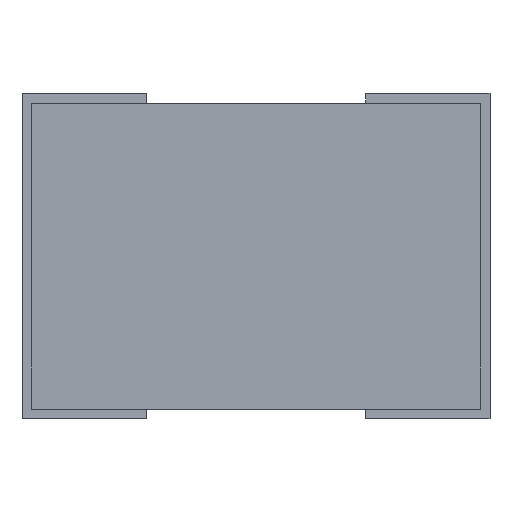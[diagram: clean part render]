
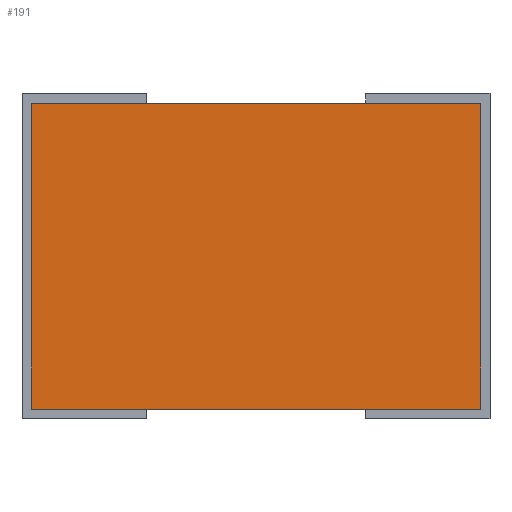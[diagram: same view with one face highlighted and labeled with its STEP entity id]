
A CAD part, front view. The second image highlights one B-rep face of the part: STEP entity #191.
In plain terms, the highlighted planar face has unit normal (0, -1, 0).
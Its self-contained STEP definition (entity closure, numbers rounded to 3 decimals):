
#191=ADVANCED_FACE('',(#197),#192,.T.);
#192=PLANE('',#193);
#193=AXIS2_PLACEMENT_3D('',#194,#195,#196);
#194=CARTESIAN_POINT('',(-0.597,-1.003,0.025));
#195=DIRECTION('',(0.0,-1.0,0.0));
#196=DIRECTION('',(0.,0.,1.));
#197=FACE_OUTER_BOUND('',#198,.T.);
#198=EDGE_LOOP('',(#199,#209,#219,#229));
#202=CARTESIAN_POINT('',(0.597,-1.003,0.025));
#201=VERTEX_POINT('',#202);
#204=CARTESIAN_POINT('',(-0.597,-1.003,0.025));
#203=VERTEX_POINT('',#204);
#200=EDGE_CURVE('',#201,#203,#205,.T.);
#205=LINE('',#202,#207);
#207=VECTOR('',#208,1.194);
#208=DIRECTION('',(-1.0,0.0,0.0));
#199=ORIENTED_EDGE('',*,*,#200,.F.);
#212=CARTESIAN_POINT('',(0.597,-1.003,0.838));
#211=VERTEX_POINT('',#212);
#210=EDGE_CURVE('',#211,#201,#215,.T.);
#215=LINE('',#212,#217);
#217=VECTOR('',#218,0.813);
#218=DIRECTION('',(0.0,0.0,-1.0));
#209=ORIENTED_EDGE('',*,*,#210,.F.);
#222=CARTESIAN_POINT('',(-0.597,-1.003,0.838));
#221=VERTEX_POINT('',#222);
#220=EDGE_CURVE('',#221,#211,#225,.T.);
#225=LINE('',#222,#227);
#227=VECTOR('',#228,1.194);
#228=DIRECTION('',(1.0,0.0,0.0));
#219=ORIENTED_EDGE('',*,*,#220,.F.);
#230=EDGE_CURVE('',#203,#221,#235,.T.);
#235=LINE('',#204,#237);
#237=VECTOR('',#238,0.813);
#238=DIRECTION('',(0.0,0.0,1.0));
#229=ORIENTED_EDGE('',*,*,#230,.F.);
